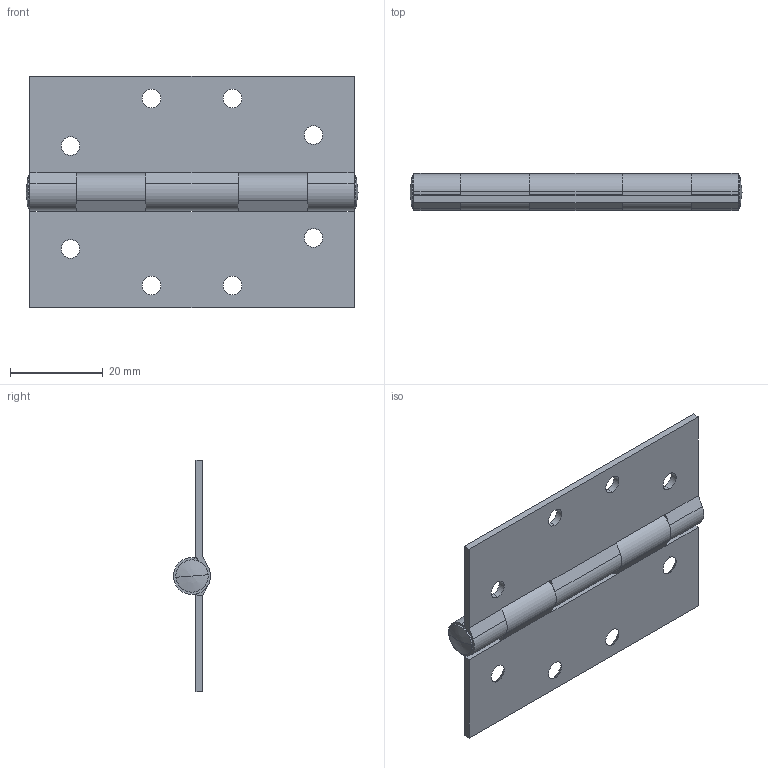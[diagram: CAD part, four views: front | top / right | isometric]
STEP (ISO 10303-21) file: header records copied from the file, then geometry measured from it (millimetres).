
FILE_DESCRIPTION (( 'STEP AP203' ), '1' );
FILE_NAME ('SBF70BS_1.STEP', '2020-05-27T07:14:43', ( '' ), ( '' ), 'SwSTEP 2.0', 'SolidWorks 2016', '' );
FILE_SCHEMA (( 'CONFIG_CONTROL_DESIGN' ));
Length unit declared in the file: millimetre
Products named in the file (4): SBF70BS; SBF70BS_1; SBF70BS_Cover_2; PinSBF70BS
Assembly tree (3 placements, depth 2):
  SBF70BS_1
    SBF70BS_Cover_2
    SBF70BS
    PinSBF70BS
Bounding box: 71.71 x 8 x 50 mm (x, y, z)
Volume: 8035.7 mm3; surface area: 10895.3 mm2
Topology: 3 solids, 3 shells, 96 faces, 262 edges, 170 vertices
Faces by surface type: cylinder 44, plane 40, cone 8, bspline 4
Entity records: 3516 total; most frequent: CARTESIAN_POINT 582, DIRECTION 558, ORIENTED_EDGE 516, EDGE_CURVE 258, AXIS2_PLACEMENT_3D 206, VERTEX_POINT 170, LINE 146, VECTOR 146
